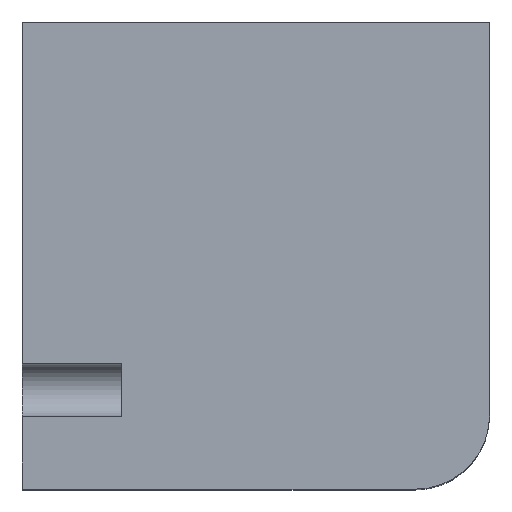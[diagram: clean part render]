
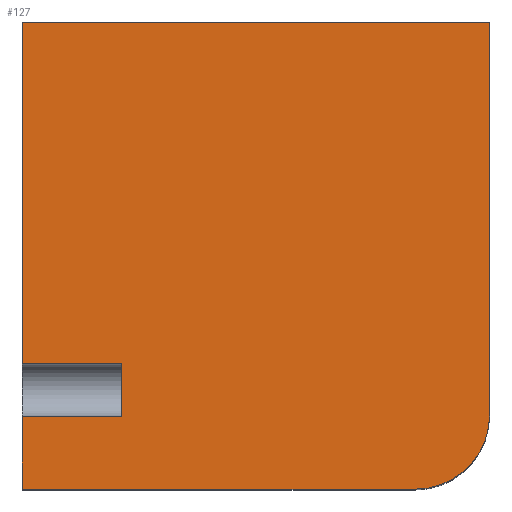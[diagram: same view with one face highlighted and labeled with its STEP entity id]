
A CAD part, top view. The second image highlights one B-rep face of the part: STEP entity #127.
In plain terms, the highlighted planar face has unit normal (0, 0, 1).
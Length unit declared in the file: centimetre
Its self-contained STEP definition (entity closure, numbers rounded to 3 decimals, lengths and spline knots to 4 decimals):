
#5 = CARTESIAN_POINT ( 'NONE',  ( 212.258, 155.2039, 1000. ) ) ;
#7 = DIRECTION ( 'NONE',  ( 0., -1., 0. ) ) ;
#8 = LINE ( 'NONE', #74, #400 ) ;
#23 = VERTEX_POINT ( 'NONE', #251 ) ;
#24 = EDGE_CURVE ( 'NONE', #23, #330, #404, .T. ) ;
#25 = ORIENTED_EDGE ( 'NONE', *, *, #185, .T. ) ;
#34 = CARTESIAN_POINT ( 'NONE',  ( 212.258, 0., 1000. ) ) ;
#41 = DIRECTION ( 'NONE',  ( 0., 0., 1. ) ) ;
#55 = ORIENTED_EDGE ( 'NONE', *, *, #72, .T. ) ;
#59 = CARTESIAN_POINT ( 'NONE',  ( 0., 1000., 1000. ) ) ;
#61 = CARTESIAN_POINT ( 'NONE',  ( 0., 155.2039, 1000. ) ) ;
#62 = EDGE_LOOP ( 'NONE', ( #393, #363, #55, #171, #376, #25, #389, #113, #64 ) ) ;
#64 = ORIENTED_EDGE ( 'NONE', *, *, #66, .T. ) ;
#66 = EDGE_CURVE ( 'NONE', #386, #242, #8, .T. ) ;
#67 = CARTESIAN_POINT ( 'NONE',  ( 0., 1000., 1000. ) ) ;
#72 = EDGE_CURVE ( 'NONE', #335, #387, #382, .T. ) ;
#74 = CARTESIAN_POINT ( 'NONE',  ( 0., 1000., 1000. ) ) ;
#77 = CARTESIAN_POINT ( 'NONE',  ( 1000., 1000., 1000. ) ) ;
#81 = CARTESIAN_POINT ( 'NONE',  ( 212.258, 269.3167, 1000. ) ) ;
#83 = EDGE_CURVE ( 'NONE', #224, #242, #132, .T. ) ;
#91 = CARTESIAN_POINT ( 'NONE',  ( 1000., 1000., 1000. ) ) ;
#98 = DIRECTION ( 'NONE',  ( 0., 0., 1. ) ) ;
#99 = EDGE_CURVE ( 'NONE', #387, #23, #199, .T. ) ;
#103 = FACE_OUTER_BOUND ( 'NONE', #62, .T. ) ;
#106 = VECTOR ( 'NONE', #322, 100. ) ;
#107 = AXIS2_PLACEMENT_3D ( 'NONE', #292, #41, #323 ) ;
#113 = ORIENTED_EDGE ( 'NONE', *, *, #259, .T. ) ;
#122 = CARTESIAN_POINT ( 'NONE',  ( 0., 0., 1000. ) ) ;
#127 = ADVANCED_FACE ( 'NONE', ( #103 ), #232, .T. ) ;
#131 = DIRECTION ( 'NONE',  ( 0., -1., 0. ) ) ;
#132 = LINE ( 'NONE', #200, #334 ) ;
#135 = DIRECTION ( 'NONE',  ( -1., 0., 0. ) ) ;
#145 = DIRECTION ( 'NONE',  ( 1., 0., 0. ) ) ;
#166 = EDGE_CURVE ( 'NONE', #224, #335, #353, .T. ) ;
#171 = ORIENTED_EDGE ( 'NONE', *, *, #99, .T. ) ;
#185 = EDGE_CURVE ( 'NONE', #330, #343, #325, .T. ) ;
#194 = VECTOR ( 'NONE', #145, 100. ) ;
#199 = LINE ( 'NONE', #67, #351 ) ;
#200 = CARTESIAN_POINT ( 'NONE',  ( 212.258, 269.3167, 1000. ) ) ;
#212 = VECTOR ( 'NONE', #7, 100. ) ;
#214 = VECTOR ( 'NONE', #220, 100. ) ;
#220 = DIRECTION ( 'NONE',  ( 0., 1., 0. ) ) ;
#224 = VERTEX_POINT ( 'NONE', #81 ) ;
#227 = CARTESIAN_POINT ( 'NONE',  ( 212.258, 155.2039, 1000. ) ) ;
#228 = AXIS2_PLACEMENT_3D ( 'NONE', #354, #98, #257 ) ;
#232 = PLANE ( 'NONE',  #228 ) ;
#235 = VECTOR ( 'NONE', #135, 100. ) ;
#237 = LINE ( 'NONE', #59, #235 ) ;
#242 = VERTEX_POINT ( 'NONE', #262 ) ;
#245 = CARTESIAN_POINT ( 'NONE',  ( 1000., 159.0849, 1000. ) ) ;
#251 = CARTESIAN_POINT ( 'NONE',  ( 0., 0., 1000. ) ) ;
#257 = DIRECTION ( 'NONE',  ( 1., 0., 0. ) ) ;
#259 = EDGE_CURVE ( 'NONE', #406, #386, #237, .T. ) ;
#262 = CARTESIAN_POINT ( 'NONE',  ( 0., 269.3167, 1000. ) ) ;
#290 = DIRECTION ( 'NONE',  ( -1., 0., 0. ) ) ;
#292 = CARTESIAN_POINT ( 'NONE',  ( 840.9151, 159.0849, 1000. ) ) ;
#316 = CARTESIAN_POINT ( 'NONE',  ( 840.9151, 0., 1000. ) ) ;
#321 = DIRECTION ( 'NONE',  ( 0., -1., 0. ) ) ;
#322 = DIRECTION ( 'NONE',  ( -1., 0., 0. ) ) ;
#323 = DIRECTION ( 'NONE',  ( 1., 0., 0. ) ) ;
#325 = CIRCLE ( 'NONE', #107, 159.0849 ) ;
#330 = VERTEX_POINT ( 'NONE', #316 ) ;
#334 = VECTOR ( 'NONE', #290, 100. ) ;
#335 = VERTEX_POINT ( 'NONE', #5 ) ;
#342 = CARTESIAN_POINT ( 'NONE',  ( 0., 1000., 1000. ) ) ;
#343 = VERTEX_POINT ( 'NONE', #245 ) ;
#351 = VECTOR ( 'NONE', #321, 100. ) ;
#353 = LINE ( 'NONE', #34, #212 ) ;
#354 = CARTESIAN_POINT ( 'NONE',  ( 0., 0., 1000. ) ) ;
#363 = ORIENTED_EDGE ( 'NONE', *, *, #166, .T. ) ;
#370 = LINE ( 'NONE', #91, #214 ) ;
#371 = EDGE_CURVE ( 'NONE', #343, #406, #370, .T. ) ;
#376 = ORIENTED_EDGE ( 'NONE', *, *, #24, .T. ) ;
#382 = LINE ( 'NONE', #227, #106 ) ;
#386 = VERTEX_POINT ( 'NONE', #342 ) ;
#387 = VERTEX_POINT ( 'NONE', #61 ) ;
#389 = ORIENTED_EDGE ( 'NONE', *, *, #371, .T. ) ;
#393 = ORIENTED_EDGE ( 'NONE', *, *, #83, .F. ) ;
#400 = VECTOR ( 'NONE', #131, 100. ) ;
#404 = LINE ( 'NONE', #122, #194 ) ;
#406 = VERTEX_POINT ( 'NONE', #77 ) ;
